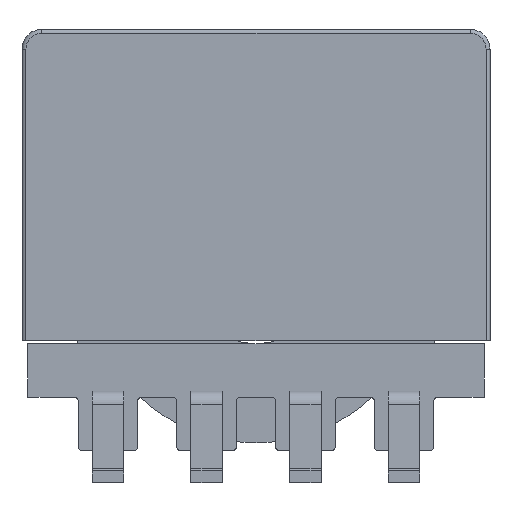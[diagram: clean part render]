
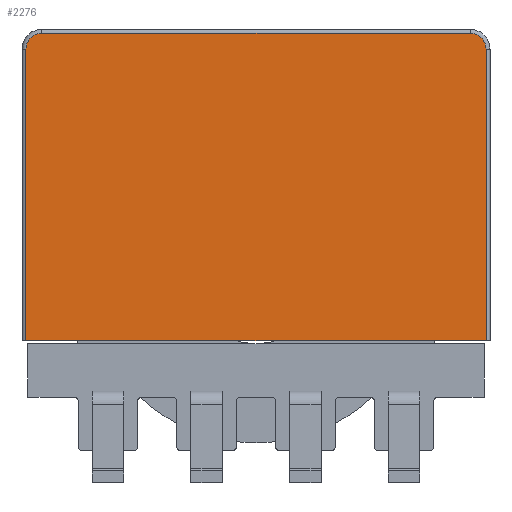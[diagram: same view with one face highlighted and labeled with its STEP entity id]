
A CAD part, front view. The second image highlights one B-rep face of the part: STEP entity #2276.
In plain terms, the highlighted planar face has unit normal (0, -1, 0) as drawn and (0, 1, 0) by its records, which use the part's own axes.
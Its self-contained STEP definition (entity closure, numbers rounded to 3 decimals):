
#22 = CARTESIAN_POINT ( 'NONE',  ( 5.4, 5.2, 7.75 ) ) ;
#212 = CARTESIAN_POINT ( 'NONE',  ( 5.4, 5.2, 7.35 ) ) ;
#381 = EDGE_LOOP ( 'NONE', ( #4341, #972, #1601, #1249, #7131, #6310 ) ) ;
#385 = CARTESIAN_POINT ( 'NONE',  ( 5.8, 5.2, 0. ) ) ;
#533 = CARTESIAN_POINT ( 'NONE',  ( 5.9, 5.2, 0. ) ) ;
#777 = CIRCLE ( 'NONE', #1013, 0.4 ) ;
#867 = DIRECTION ( 'NONE',  ( 0., 0., -1. ) ) ;
#883 = EDGE_CURVE ( 'NONE', #2168, #3101, #6141, .T. ) ;
#972 = ORIENTED_EDGE ( 'NONE', *, *, #5754, .T. ) ;
#975 = FACE_OUTER_BOUND ( 'NONE', #381, .T. ) ;
#1013 = AXIS2_PLACEMENT_3D ( 'NONE', #212, #1344, #5733 ) ;
#1249 = ORIENTED_EDGE ( 'NONE', *, *, #2576, .T. ) ;
#1304 = VERTEX_POINT ( 'NONE', #1441 ) ;
#1344 = DIRECTION ( 'NONE',  ( 0., 1., 0. ) ) ;
#1441 = CARTESIAN_POINT ( 'NONE',  ( -5.8, 5.2, 0. ) ) ;
#1553 = DIRECTION ( 'NONE',  ( 0., 0., -1. ) ) ;
#1601 = ORIENTED_EDGE ( 'NONE', *, *, #883, .T. ) ;
#1747 = LINE ( 'NONE', #1782, #3669 ) ;
#1782 = CARTESIAN_POINT ( 'NONE',  ( 5.8, 5.2, 7.85 ) ) ;
#1977 = VECTOR ( 'NONE', #5388, 1000. ) ;
#2134 = VERTEX_POINT ( 'NONE', #6917 ) ;
#2168 = VERTEX_POINT ( 'NONE', #4200 ) ;
#2196 = VERTEX_POINT ( 'NONE', #385 ) ;
#2276 = ADVANCED_FACE ( 'NONE', ( #975 ), #3760, .F. ) ;
#2576 = EDGE_CURVE ( 'NONE', #3101, #3558, #5919, .T. ) ;
#2705 = AXIS2_PLACEMENT_3D ( 'NONE', #6618, #4993, #1553 ) ;
#2904 = LINE ( 'NONE', #533, #6619 ) ;
#3001 = AXIS2_PLACEMENT_3D ( 'NONE', #3064, #5902, #867 ) ;
#3064 = CARTESIAN_POINT ( 'NONE',  ( -5.4, 5.2, 7.35 ) ) ;
#3079 = DIRECTION ( 'NONE',  ( 0., 0., 1. ) ) ;
#3101 = VERTEX_POINT ( 'NONE', #3356 ) ;
#3356 = CARTESIAN_POINT ( 'NONE',  ( -5.4, 5.2, 7.75 ) ) ;
#3558 = VERTEX_POINT ( 'NONE', #22 ) ;
#3631 = LINE ( 'NONE', #5853, #5063 ) ;
#3668 = CARTESIAN_POINT ( 'NONE',  ( 5.4, 5.2, 7.75 ) ) ;
#3669 = VECTOR ( 'NONE', #6168, 1000. ) ;
#3760 = PLANE ( 'NONE',  #2705 ) ;
#4200 = CARTESIAN_POINT ( 'NONE',  ( -5.8, 5.2, 7.35 ) ) ;
#4341 = ORIENTED_EDGE ( 'NONE', *, *, #5179, .T. ) ;
#4551 = DIRECTION ( 'NONE',  ( -1., 0., 0. ) ) ;
#4864 = EDGE_CURVE ( 'NONE', #3558, #2134, #777, .T. ) ;
#4993 = DIRECTION ( 'NONE',  ( 0., -1., 0. ) ) ;
#5063 = VECTOR ( 'NONE', #3079, 1000. ) ;
#5179 = EDGE_CURVE ( 'NONE', #2196, #1304, #2904, .T. ) ;
#5388 = DIRECTION ( 'NONE',  ( 1., 0., 0. ) ) ;
#5733 = DIRECTION ( 'NONE',  ( 0., 0., -1. ) ) ;
#5754 = EDGE_CURVE ( 'NONE', #1304, #2168, #3631, .T. ) ;
#5853 = CARTESIAN_POINT ( 'NONE',  ( -5.8, 5.2, 7.85 ) ) ;
#5902 = DIRECTION ( 'NONE',  ( 0., 1., 0. ) ) ;
#5919 = LINE ( 'NONE', #3668, #1977 ) ;
#5947 = EDGE_CURVE ( 'NONE', #2134, #2196, #1747, .T. ) ;
#6141 = CIRCLE ( 'NONE', #3001, 0.4 ) ;
#6168 = DIRECTION ( 'NONE',  ( 0., 0., -1. ) ) ;
#6310 = ORIENTED_EDGE ( 'NONE', *, *, #5947, .T. ) ;
#6618 = CARTESIAN_POINT ( 'NONE',  ( 5.9, 5.2, 7.85 ) ) ;
#6619 = VECTOR ( 'NONE', #4551, 1000. ) ;
#6917 = CARTESIAN_POINT ( 'NONE',  ( 5.8, 5.2, 7.35 ) ) ;
#7131 = ORIENTED_EDGE ( 'NONE', *, *, #4864, .T. ) ;
